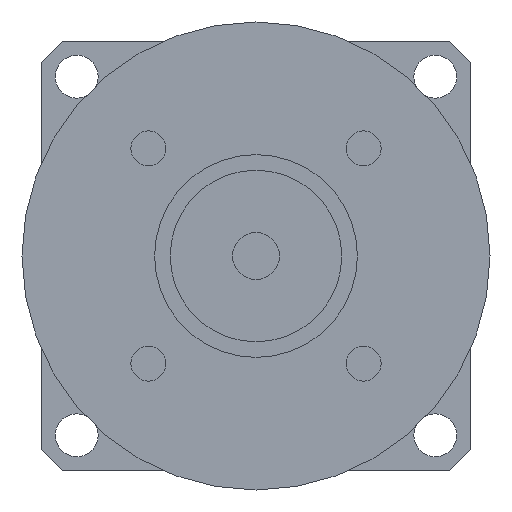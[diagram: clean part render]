
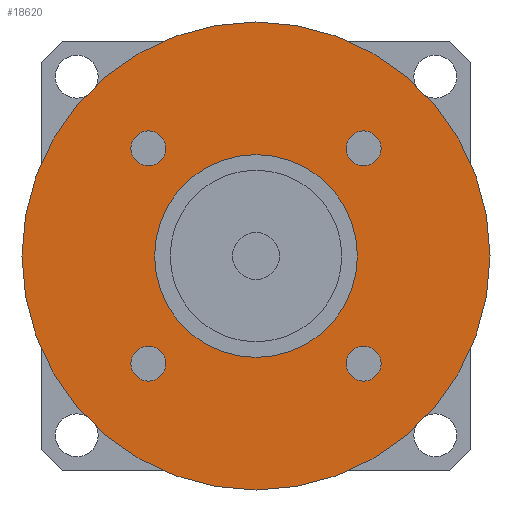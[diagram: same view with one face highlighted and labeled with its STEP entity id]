
A CAD part, left-side view. The second image highlights one B-rep face of the part: STEP entity #18620.
In plain terms, the highlighted planar face has unit normal (-1, 0, 0) as drawn and (0, 0, -1) by its records, which use the part's own axes.
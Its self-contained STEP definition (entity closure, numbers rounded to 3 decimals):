
#11050=CARTESIAN_POINT('',(0.,0.,
-58.));
#11060=DIRECTION('',(0.,0.,1.));
#11070=DIRECTION('',(0.,-1.,0.));
#11080=AXIS2_PLACEMENT_3D('',#11050,#11060,#11070);
#11090=CIRCLE('',#11080,13.);
#11100=CARTESIAN_POINT('',(0.,-13.,-58.));
#11110=VERTEX_POINT('',#11100);
#11120=CARTESIAN_POINT('',(13.,0.,-58.));
#11130=VERTEX_POINT('',#11120);
#11140=EDGE_CURVE('',#11110,#11130,#11090,.T.);
#11370=CARTESIAN_POINT('',(-13.,0.,-58.));
#11380=VERTEX_POINT('',#11370);
#11410=EDGE_CURVE('',#11380,#11110,#11090,.T.);
#12740=CARTESIAN_POINT('',(-11.539,-13.789,-58.));
#12750=VERTEX_POINT('',#12740);
#12930=CARTESIAN_POINT('',(-16.039,-13.789,-58.));
#12940=VERTEX_POINT('',#12930);
#12970=CARTESIAN_POINT('',(-13.789,-13.789,-58.));
#12980=DIRECTION('',(0.,0.,-1.));
#12990=DIRECTION('',(0.,-1.,0.));
#13000=AXIS2_PLACEMENT_3D('',#12970,#12980,#12990);
#13010=CIRCLE('',#13000,2.25);
#13020=CARTESIAN_POINT('',(-13.789,-16.039,-58.));
#13030=VERTEX_POINT('',#13020);
#13040=EDGE_CURVE('',#13030,#12940,#13010,.T.);
#13060=EDGE_CURVE('',#12750,#13030,#13010,.T.);
#17550=CARTESIAN_POINT('',(30.,0.,-58.));
#17560=VERTEX_POINT('',#17550);
#17590=CARTESIAN_POINT('',(0.,0.,
-58.));
#17600=DIRECTION('',(0.,0.,1.));
#17610=DIRECTION('',(0.,-1.,0.));
#17620=AXIS2_PLACEMENT_3D('',#17590,#17600,#17610);
#17630=CIRCLE('',#17620,30.);
#17640=CARTESIAN_POINT('',(0.,-30.,-58.));
#17650=VERTEX_POINT('',#17640);
#17660=EDGE_CURVE('',#17650,#17560,#17630,.T.);
#17680=CARTESIAN_POINT('',(-30.,0.,-58.));
#17690=VERTEX_POINT('',#17680);
#17700=EDGE_CURVE('',#17690,#17650,#17630,.T.);
#17820=CARTESIAN_POINT('',(0.,0.,
-58.));
#17830=DIRECTION('',(0.,0.,1.));
#17840=DIRECTION('',(-1.,0.,0.));
#17850=AXIS2_PLACEMENT_3D('',#17820,#17830,#17840);
#17860=PLANE('',#17850);
#17870=CARTESIAN_POINT('',(13.789,-13.789,-58.));
#17880=DIRECTION('',(0.,0.,-1.));
#17890=DIRECTION('',(1.,0.,0.));
#17900=AXIS2_PLACEMENT_3D('',#17870,#17880,#17890);
#17910=CIRCLE('',#17900,2.25);
#17920=CARTESIAN_POINT('',(16.039,-13.789,-58.));
#17930=VERTEX_POINT('',#17920);
#17940=CARTESIAN_POINT('',(13.789,-16.039,-58.));
#17950=VERTEX_POINT('',#17940);
#17960=EDGE_CURVE('',#17930,#17950,#17910,.T.);
#17970=ORIENTED_EDGE('',*,*,#17960,.F.);
#17980=CARTESIAN_POINT('',(13.789,-11.539,-58.));
#17990=VERTEX_POINT('',#17980);
#18000=EDGE_CURVE('',#17950,#17990,#17910,.T.);
#18010=ORIENTED_EDGE('',*,*,#18000,.F.);
#18020=EDGE_CURVE('',#17990,#17930,#17910,.T.);
#18030=ORIENTED_EDGE('',*,*,#18020,.F.);
#18040=EDGE_LOOP('',(#18030,#18010,#17970));
#18050=FACE_BOUND('',#18040,.T.);
#18060=CARTESIAN_POINT('',(13.789,13.789,-58.));
#18070=DIRECTION('',(0.,0.,-1.));
#18080=DIRECTION('',(0.,1.,0.));
#18090=AXIS2_PLACEMENT_3D('',#18060,#18070,#18080);
#18100=CIRCLE('',#18090,2.25);
#18110=CARTESIAN_POINT('',(13.789,16.039,-58.));
#18120=VERTEX_POINT('',#18110);
#18130=CARTESIAN_POINT('',(16.039,13.789,-58.));
#18140=VERTEX_POINT('',#18130);
#18150=EDGE_CURVE('',#18120,#18140,#18100,.T.);
#18160=ORIENTED_EDGE('',*,*,#18150,.F.);
#18170=CARTESIAN_POINT('',(11.539,13.789,-58.));
#18180=VERTEX_POINT('',#18170);
#18190=EDGE_CURVE('',#18140,#18180,#18100,.T.);
#18200=ORIENTED_EDGE('',*,*,#18190,.F.);
#18210=EDGE_CURVE('',#18180,#18120,#18100,.T.);
#18220=ORIENTED_EDGE('',*,*,#18210,.F.);
#18230=EDGE_LOOP('',(#18220,#18200,#18160));
#18240=FACE_BOUND('',#18230,.T.);
#18250=CARTESIAN_POINT('',(-13.789,13.789,-58.));
#18260=DIRECTION('',(0.,0.,-1.));
#18270=DIRECTION('',(-1.,0.,0.));
#18280=AXIS2_PLACEMENT_3D('',#18250,#18260,#18270);
#18290=CIRCLE('',#18280,2.25);
#18300=CARTESIAN_POINT('',(-16.039,13.789,-58.));
#18310=VERTEX_POINT('',#18300);
#18320=CARTESIAN_POINT('',(-13.789,16.039,-58.));
#18330=VERTEX_POINT('',#18320);
#18340=EDGE_CURVE('',#18310,#18330,#18290,.T.);
#18350=ORIENTED_EDGE('',*,*,#18340,.F.);
#18360=CARTESIAN_POINT('',(-13.789,11.539,-58.));
#18370=VERTEX_POINT('',#18360);
#18380=EDGE_CURVE('',#18330,#18370,#18290,.T.);
#18390=ORIENTED_EDGE('',*,*,#18380,.F.);
#18400=EDGE_CURVE('',#18370,#18310,#18290,.T.);
#18410=ORIENTED_EDGE('',*,*,#18400,.F.);
#18420=EDGE_LOOP('',(#18410,#18390,#18350));
#18430=FACE_BOUND('',#18420,.T.);
#18440=ORIENTED_EDGE('',*,*,#13040,.F.);
#18450=EDGE_CURVE('',#12940,#12750,#13010,.T.);
#18460=ORIENTED_EDGE('',*,*,#18450,.F.);
#18470=ORIENTED_EDGE('',*,*,#13060,.F.);
#18480=EDGE_LOOP('',(#18470,#18460,#18440));
#18490=FACE_BOUND('',#18480,.T.);
#18500=ORIENTED_EDGE('',*,*,#17660,.F.);
#18510=EDGE_CURVE('',#17560,#17690,#17630,.T.);
#18520=ORIENTED_EDGE('',*,*,#18510,.F.);
#18530=ORIENTED_EDGE('',*,*,#17700,.F.);
#18540=EDGE_LOOP('',(#18530,#18520,#18500));
#18550=FACE_OUTER_BOUND('',#18540,.T.);
#18560=EDGE_CURVE('',#11130,#11380,#11090,.T.);
#18570=ORIENTED_EDGE('',*,*,#18560,.T.);
#18580=ORIENTED_EDGE('',*,*,#11140,.T.);
#18590=ORIENTED_EDGE('',*,*,#11410,.T.);
#18600=EDGE_LOOP('',(#18590,#18580,#18570));
#18610=FACE_BOUND('',#18600,.T.);
#18620=ADVANCED_FACE('',(#18050,#18240,#18430,#18490,#18550,#18610),
#17860,.F.);
